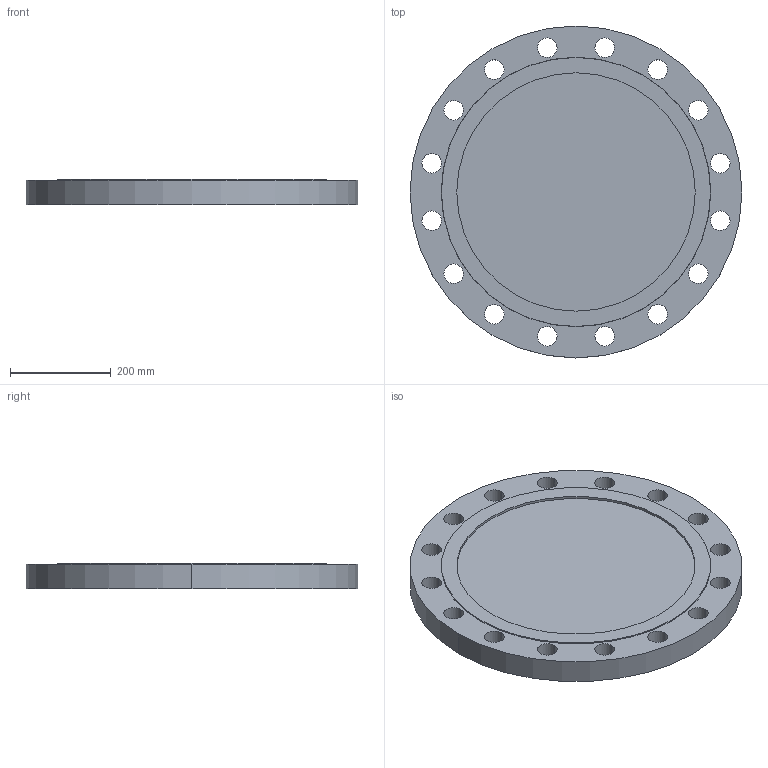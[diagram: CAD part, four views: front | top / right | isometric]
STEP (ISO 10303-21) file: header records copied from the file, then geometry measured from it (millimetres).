
FILE_DESCRIPTION (( 'STEP AP214' ), '1' );
FILE_NAME ('PN40 DN400 Type 05 - Type F Face.STEP', '2019-01-05T23:20:54', ( '' ), ( '' ), 'SwSTEP 2.0', 'SolidWorks 2019', '' );
FILE_SCHEMA (( 'AUTOMOTIVE_DESIGN' ));
Length unit declared in the file: millimetre
Products named in the file (1): PN40 DN400 Type 05 - Type F Face
Bounding box: 660 x 660 x 50 mm (x, y, z)
Volume: 15072181.1 mm3; surface area: 849902.7 mm2
Topology: 1 solids, 1 shells, 42 faces, 114 edges, 76 vertices
Faces by surface type: cylinder 36, plane 4, cone 2
Entity records: 1472 total; most frequent: DIRECTION 276, CARTESIAN_POINT 233, ORIENTED_EDGE 228, AXIS2_PLACEMENT_3D 119, EDGE_CURVE 114, CIRCLE 76, EDGE_LOOP 76, VERTEX_POINT 76
